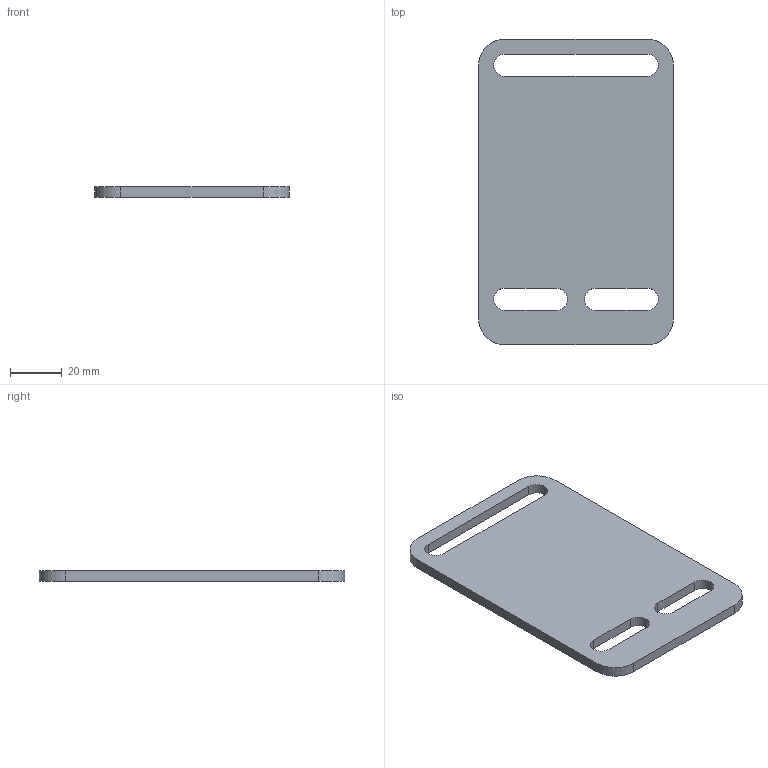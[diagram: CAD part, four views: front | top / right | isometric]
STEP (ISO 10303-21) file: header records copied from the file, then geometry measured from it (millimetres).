
FILE_DESCRIPTION (( 'STEP AP203' ), '1' );
FILE_NAME ('084.106.106.STEP', '2013-01-23T10:18:30', ( 'Alusic' ), ( 'Alusic' ), 'SwSTEP 2.0', 'SolidWorks 2011', '' );
FILE_SCHEMA (( 'CONFIG_CONTROL_DESIGN' ));
Length unit declared in the file: millimetre
Products named in the file (1): 084.106.106
Bounding box: 75 x 117.75 x 4 mm (x, y, z)
Volume: 31070.7 mm3; surface area: 18089.1 mm2
Topology: 1 solids, 1 shells, 25 faces, 69 edges, 46 vertices
Faces by surface type: cylinder 13, plane 12
Entity records: 898 total; most frequent: DIRECTION 147, CARTESIAN_POINT 141, ORIENTED_EDGE 138, EDGE_CURVE 69, AXIS2_PLACEMENT_3D 52, VERTEX_POINT 46, VECTOR 43, LINE 43
